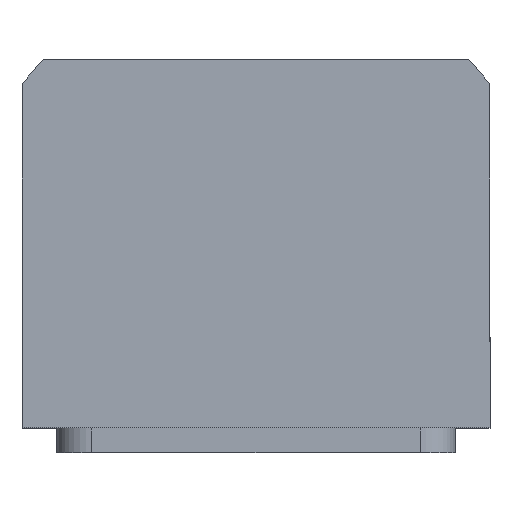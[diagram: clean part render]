
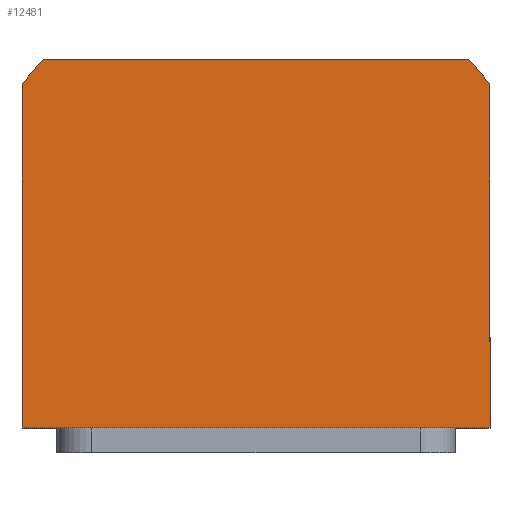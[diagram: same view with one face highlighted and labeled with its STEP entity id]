
A CAD part, top view. The second image highlights one B-rep face of the part: STEP entity #12481.
In plain terms, the highlighted planar face has unit normal (0, 0, 1).
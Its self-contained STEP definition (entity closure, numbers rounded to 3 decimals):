
#33 = FACE_OUTER_BOUND ( 'NONE', #7714, .T. ) ;
#328 = CARTESIAN_POINT ( 'NONE',  ( -42.688, 40., 50. ) ) ;
#583 = CIRCLE ( 'NONE', #9611, 58.5 ) ;
#786 = CIRCLE ( 'NONE', #11618, 58.5 ) ;
#788 = DIRECTION ( 'NONE',  ( 1., 0., 0. ) ) ;
#1235 = EDGE_CURVE ( 'NONE', #7285, #11375, #8264, .T. ) ;
#1772 = CARTESIAN_POINT ( 'NONE',  ( 47., -34., 50. ) ) ;
#2582 = DIRECTION ( 'NONE',  ( 0., 0., 1. ) ) ;
#2640 = DIRECTION ( 'NONE',  ( 1., 0., 0. ) ) ;
#2771 = VERTEX_POINT ( 'NONE', #2844 ) ;
#2822 = DIRECTION ( 'NONE',  ( 0., -1., 0. ) ) ;
#2844 = CARTESIAN_POINT ( 'NONE',  ( -42.688, 40., 50. ) ) ;
#2868 = ORIENTED_EDGE ( 'NONE', *, *, #11502, .T. ) ;
#3134 = ORIENTED_EDGE ( 'NONE', *, *, #3365, .T. ) ;
#3365 = EDGE_CURVE ( 'NONE', #8612, #2771, #7358, .T. ) ;
#3598 = DIRECTION ( 'NONE',  ( 1., 0., 0. ) ) ;
#3686 = ORIENTED_EDGE ( 'NONE', *, *, #1235, .T. ) ;
#4208 = VERTEX_POINT ( 'NONE', #12506 ) ;
#4481 = CARTESIAN_POINT ( 'NONE',  ( 47., 34.832, 50. ) ) ;
#4563 = ORIENTED_EDGE ( 'NONE', *, *, #6339, .T. ) ;
#5203 = VECTOR ( 'NONE', #788, 1000. ) ;
#5564 = CARTESIAN_POINT ( 'NONE',  ( 42.688, 40., 50. ) ) ;
#6248 = VERTEX_POINT ( 'NONE', #10554 ) ;
#6339 = EDGE_CURVE ( 'NONE', #6248, #8612, #583, .T. ) ;
#6441 = CARTESIAN_POINT ( 'NONE',  ( -47., -34., 50. ) ) ;
#6714 = DIRECTION ( 'NONE',  ( 0., 0., 1. ) ) ;
#6818 = EDGE_CURVE ( 'NONE', #11375, #6248, #12189, .T. ) ;
#7125 = CARTESIAN_POINT ( 'NONE',  ( 0., 0., 50. ) ) ;
#7158 = CARTESIAN_POINT ( 'NONE',  ( -47., -34., 50. ) ) ;
#7285 = VERTEX_POINT ( 'NONE', #7158 ) ;
#7358 = LINE ( 'NONE', #328, #14959 ) ;
#7714 = EDGE_LOOP ( 'NONE', ( #3686, #13435, #4563, #3134, #9645, #2868 ) ) ;
#8000 = DIRECTION ( 'NONE',  ( 0., 1., 0. ) ) ;
#8177 = CARTESIAN_POINT ( 'NONE',  ( 0., 0., 50. ) ) ;
#8264 = LINE ( 'NONE', #1772, #5203 ) ;
#8388 = DIRECTION ( 'NONE',  ( 0., 0., 1. ) ) ;
#8612 = VERTEX_POINT ( 'NONE', #5564 ) ;
#8973 = CARTESIAN_POINT ( 'NONE',  ( 0., 0., 50. ) ) ;
#9611 = AXIS2_PLACEMENT_3D ( 'NONE', #8177, #2582, #3598 ) ;
#9645 = ORIENTED_EDGE ( 'NONE', *, *, #13679, .T. ) ;
#9959 = VECTOR ( 'NONE', #2822, 1000. ) ;
#10019 = VECTOR ( 'NONE', #8000, 1000. ) ;
#10145 = DIRECTION ( 'NONE',  ( 1., 0., 0. ) ) ;
#10554 = CARTESIAN_POINT ( 'NONE',  ( 47., 34.832, 50. ) ) ;
#10637 = AXIS2_PLACEMENT_3D ( 'NONE', #7125, #8388, #2640 ) ;
#10850 = LINE ( 'NONE', #6441, #9959 ) ;
#11375 = VERTEX_POINT ( 'NONE', #12677 ) ;
#11502 = EDGE_CURVE ( 'NONE', #4208, #7285, #10850, .T. ) ;
#11618 = AXIS2_PLACEMENT_3D ( 'NONE', #8973, #6714, #10145 ) ;
#11753 = DIRECTION ( 'NONE',  ( -1., 0., 0. ) ) ;
#12189 = LINE ( 'NONE', #4481, #10019 ) ;
#12481 = ADVANCED_FACE ( 'NONE', ( #33 ), #12849, .T. ) ;
#12506 = CARTESIAN_POINT ( 'NONE',  ( -47., 34.832, 50. ) ) ;
#12677 = CARTESIAN_POINT ( 'NONE',  ( 47., -34., 50. ) ) ;
#12849 = PLANE ( 'NONE',  #10637 ) ;
#13435 = ORIENTED_EDGE ( 'NONE', *, *, #6818, .T. ) ;
#13679 = EDGE_CURVE ( 'NONE', #2771, #4208, #786, .T. ) ;
#14959 = VECTOR ( 'NONE', #11753, 1000. ) ;
